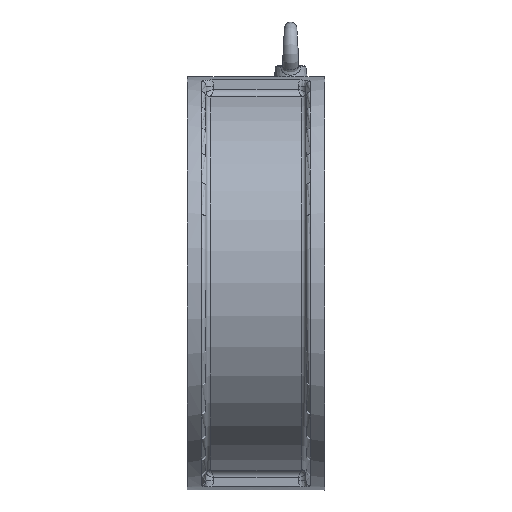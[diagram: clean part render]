
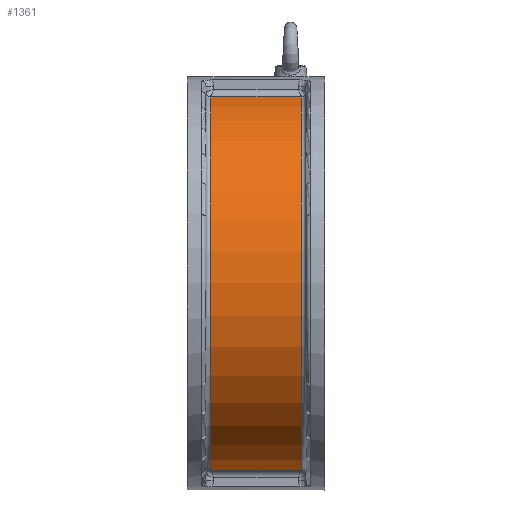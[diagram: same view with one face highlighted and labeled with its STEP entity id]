
A CAD part, left-side view. The second image highlights one B-rep face of the part: STEP entity #1361.
In plain terms, the highlighted cylindrical face has radius 124 mm (diameter 248 mm), a partial arc.
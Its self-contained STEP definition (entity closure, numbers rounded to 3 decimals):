
#204 = B_SPLINE_CURVE_WITH_KNOTS ( 'NONE', 3,
 ( #5248, #3689, #8492, #1369 ),
 .UNSPECIFIED., .F., .F.,
 ( 4, 4 ),
 ( 0., 0. ),
 .UNSPECIFIED. ) ;
#652 = CIRCLE ( 'NONE', #2276, 124. ) ;
#805 = CARTESIAN_POINT ( 'NONE',  ( 3366.696, 1458.289, -121.044 ) ) ;
#938 = VERTEX_POINT ( 'NONE', #1639 ) ;
#1215 = CARTESIAN_POINT ( 'NONE',  ( 3366.557, 1399.353, 121.013 ) ) ;
#1358 = ORIENTED_EDGE ( 'NONE', *, *, #7189, .T. ) ;
#1361 = ADVANCED_FACE ( 'NONE', ( #8387 ), #2070, .T. ) ;
#1369 = CARTESIAN_POINT ( 'NONE',  ( 3366.272, 1458.337, 120.949 ) ) ;
#1429 = CIRCLE ( 'NONE', #4920, 124. ) ;
#1618 = VERTEX_POINT ( 'NONE', #2889 ) ;
#1639 = CARTESIAN_POINT ( 'NONE',  ( 3366.272, 1399.337, 120.949 ) ) ;
#1974 = VECTOR ( 'NONE', #6262, 1000. ) ;
#2010 = CARTESIAN_POINT ( 'NONE',  ( 3366.696, 1399.385, 121.044 ) ) ;
#2070 = CYLINDRICAL_SURFACE ( 'NONE', #10083, 124. ) ;
#2105 = CARTESIAN_POINT ( 'NONE',  ( 3366.557, 1399.353, -121.013 ) ) ;
#2177 = EDGE_CURVE ( 'NONE', #3961, #9181, #9152, .T. ) ;
#2276 = AXIS2_PLACEMENT_3D ( 'NONE', #3436, #7453, #8988 ) ;
#2338 = ORIENTED_EDGE ( 'NONE', *, *, #2177, .T. ) ;
#2389 = DIRECTION ( 'NONE',  ( 0., 1., 0. ) ) ;
#2564 = EDGE_CURVE ( 'NONE', #9181, #2803, #204, .T. ) ;
#2596 = CARTESIAN_POINT ( 'NONE',  ( 3366.272, 1399.337, -120.949 ) ) ;
#2646 = EDGE_CURVE ( 'NONE', #9381, #5397, #3457, .T. ) ;
#2654 = CARTESIAN_POINT ( 'NONE',  ( 3366.272, 1458.337, -120.949 ) ) ;
#2741 = B_SPLINE_CURVE_WITH_KNOTS ( 'NONE', 3,
 ( #9953, #9265, #1215, #2010 ),
 .UNSPECIFIED., .F., .F.,
 ( 4, 4 ),
 ( 0., 0. ),
 .UNSPECIFIED. ) ;
#2803 = VERTEX_POINT ( 'NONE', #3576 ) ;
#2889 = CARTESIAN_POINT ( 'NONE',  ( 3366.272, 1458.337, -120.949 ) ) ;
#3028 = EDGE_CURVE ( 'NONE', #1618, #2803, #1429, .T. ) ;
#3208 = ORIENTED_EDGE ( 'NONE', *, *, #3028, .F. ) ;
#3300 = CARTESIAN_POINT ( 'NONE',  ( 3366.415, 1458.337, -120.981 ) ) ;
#3369 = CARTESIAN_POINT ( 'NONE',  ( 3366.696, 1458.289, -121.044 ) ) ;
#3436 = CARTESIAN_POINT ( 'NONE',  ( 3393.611, 1399.337, 0. ) ) ;
#3439 = DIRECTION ( 'NONE',  ( 0., -1., 0. ) ) ;
#3457 = B_SPLINE_CURVE_WITH_KNOTS ( 'NONE', 3,
 ( #4415, #2105, #6180, #5383 ),
 .UNSPECIFIED., .F., .F.,
 ( 4, 4 ),
 ( 0., 0. ),
 .UNSPECIFIED. ) ;
#3564 = EDGE_CURVE ( 'NONE', #938, #3961, #2741, .T. ) ;
#3576 = CARTESIAN_POINT ( 'NONE',  ( 3366.272, 1458.337, 120.949 ) ) ;
#3689 = CARTESIAN_POINT ( 'NONE',  ( 3366.557, 1458.321, 121.013 ) ) ;
#3750 = EDGE_CURVE ( 'NONE', #1618, #5274, #9250, .T. ) ;
#3961 = VERTEX_POINT ( 'NONE', #6085 ) ;
#3967 = DIRECTION ( 'NONE',  ( -1., 0., 0. ) ) ;
#4127 = CARTESIAN_POINT ( 'NONE',  ( 3366.557, 1458.321, -121.013 ) ) ;
#4415 = CARTESIAN_POINT ( 'NONE',  ( 3366.696, 1399.385, -121.044 ) ) ;
#4442 = ORIENTED_EDGE ( 'NONE', *, *, #8522, .T. ) ;
#4610 = CARTESIAN_POINT ( 'NONE',  ( 3366.696, 1399.385, -121.044 ) ) ;
#4920 = AXIS2_PLACEMENT_3D ( 'NONE', #8681, #2389, #3967 ) ;
#5020 = ORIENTED_EDGE ( 'NONE', *, *, #2646, .T. ) ;
#5038 = CARTESIAN_POINT ( 'NONE',  ( 3366.696, 1458.289, 121.044 ) ) ;
#5248 = CARTESIAN_POINT ( 'NONE',  ( 3366.696, 1458.289, 121.044 ) ) ;
#5274 = VERTEX_POINT ( 'NONE', #805 ) ;
#5383 = CARTESIAN_POINT ( 'NONE',  ( 3366.272, 1399.337, -120.949 ) ) ;
#5397 = VERTEX_POINT ( 'NONE', #2596 ) ;
#5938 = CARTESIAN_POINT ( 'NONE',  ( 3393.611, 1477.466, 0. ) ) ;
#6085 = CARTESIAN_POINT ( 'NONE',  ( 3366.696, 1399.385, 121.044 ) ) ;
#6180 = CARTESIAN_POINT ( 'NONE',  ( 3366.415, 1399.337, -120.981 ) ) ;
#6196 = ORIENTED_EDGE ( 'NONE', *, *, #3564, .T. ) ;
#6262 = DIRECTION ( 'NONE',  ( 0., 1., 0. ) ) ;
#6711 = ORIENTED_EDGE ( 'NONE', *, *, #3750, .T. ) ;
#6798 = DIRECTION ( 'NONE',  ( -1., 0., 0. ) ) ;
#6990 = ORIENTED_EDGE ( 'NONE', *, *, #2564, .T. ) ;
#7189 = EDGE_CURVE ( 'NONE', #5397, #938, #652, .T. ) ;
#7453 = DIRECTION ( 'NONE',  ( 0., 1., 0. ) ) ;
#7491 = EDGE_LOOP ( 'NONE', ( #3208, #6711, #4442, #5020, #1358, #6196, #2338, #6990 ) ) ;
#8387 = FACE_OUTER_BOUND ( 'NONE', #7491, .T. ) ;
#8492 = CARTESIAN_POINT ( 'NONE',  ( 3366.415, 1458.337, 120.981 ) ) ;
#8522 = EDGE_CURVE ( 'NONE', #5274, #9381, #9322, .T. ) ;
#8681 = CARTESIAN_POINT ( 'NONE',  ( 3393.611, 1458.337, 0. ) ) ;
#8988 = DIRECTION ( 'NONE',  ( -1., 0., 0. ) ) ;
#8993 = CARTESIAN_POINT ( 'NONE',  ( 3366.696, 1477.466, -121.044 ) ) ;
#9090 = VECTOR ( 'NONE', #3439, 1000. ) ;
#9152 = LINE ( 'NONE', #9375, #1974 ) ;
#9181 = VERTEX_POINT ( 'NONE', #5038 ) ;
#9250 = B_SPLINE_CURVE_WITH_KNOTS ( 'NONE', 3,
 ( #2654, #3300, #4127, #3369 ),
 .UNSPECIFIED., .F., .F.,
 ( 4, 4 ),
 ( 0., 0. ),
 .UNSPECIFIED. ) ;
#9265 = CARTESIAN_POINT ( 'NONE',  ( 3366.415, 1399.337, 120.981 ) ) ;
#9322 = LINE ( 'NONE', #8993, #9090 ) ;
#9375 = CARTESIAN_POINT ( 'NONE',  ( 3366.696, 1477.466, 121.044 ) ) ;
#9381 = VERTEX_POINT ( 'NONE', #4610 ) ;
#9946 = DIRECTION ( 'NONE',  ( 0., 1., 0. ) ) ;
#9953 = CARTESIAN_POINT ( 'NONE',  ( 3366.272, 1399.337, 120.949 ) ) ;
#10083 = AXIS2_PLACEMENT_3D ( 'NONE', #5938, #9946, #6798 ) ;
